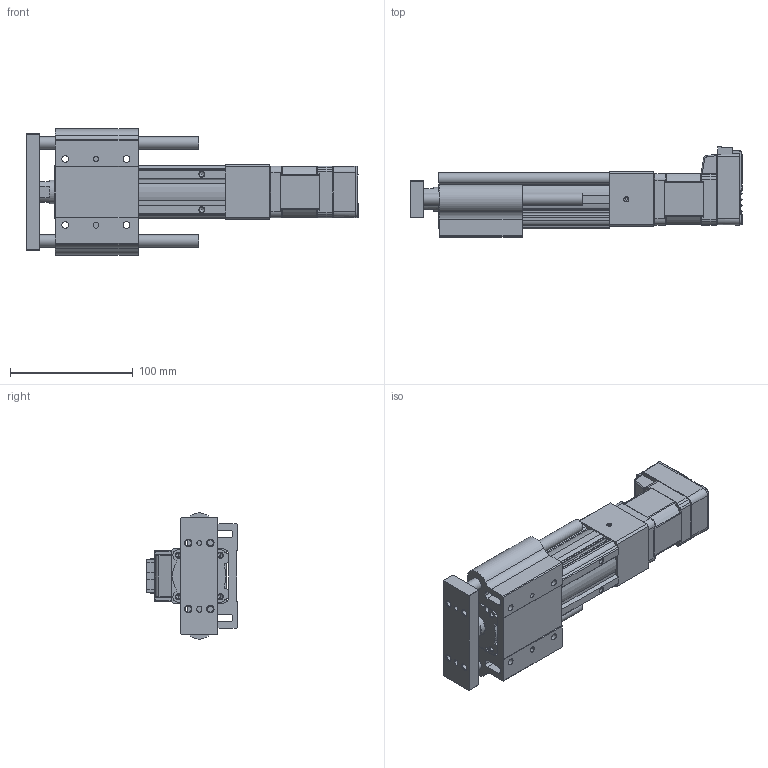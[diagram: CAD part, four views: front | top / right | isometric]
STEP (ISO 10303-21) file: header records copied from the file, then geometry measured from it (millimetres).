
FILE_DESCRIPTION (( 'STEP AP214' ), '1' );
FILE_NAME ('LEYG3(+)-25LDNM1□-50-17L.STEP', '2023-04-10T04:35:58', ( '' ), ( '' ), 'SwSTEP 2.0', 'SolidWorks 2019', '' );
FILE_SCHEMA (( 'AUTOMOTIVE_DESIGN' ));
Length unit declared in the file: millimetre
Products named in the file (6): LEYG3(+)-25LNM1?_ROD_50; LEYG3(+)-25LNM1□_ATTACH_50; CM3(+)-17L50A; LEYG3(+)-25□DNM1_MOTOR Flange; LEYG3(+)-25NM1?_BODY_50; LEYG3(+)-25LDNM1□-50-17L
Assembly tree (5 placements, depth 2):
  LEYG3(+)-25LDNM1□-50-17L
    LEYG3(+)-25NM1?_BODY_50
    LEYG3(+)-25LNM1?_ROD_50
    LEYG3(+)-25LNM1□_ATTACH_50
    LEYG3(+)-25□DNM1_MOTOR Flange
    CM3(+)-17L50A
Bounding box: 270.8 x 73.55 x 103 mm (x, y, z)
Volume: 612626.8 mm3; surface area: 138096.7 mm2
Topology: 5 solids, 5 shells, 940 faces, 2388 edges, 1501 vertices
Faces by surface type: plane 499, cylinder 272, cone 90, bspline 29, torus 29, sphere 21
Full cylindrical faces by diameter (mm): 2.5 x4, 3.5 x4, 4 x2, 4.2 x2, 4.9 x4, 5 x1, 5.4 x4, 8 x1, 10 x2, 11 x1, 22 x1, 33 x1
Entity records: 38867 total; most frequent: CARTESIAN_POINT 6846, ORIENTED_EDGE 4620, DIRECTION 4489, EDGE_CURVE 2310, AXIS2_PLACEMENT_3D 1502, VERTEX_POINT 1494, VECTOR 1485, LINE 1485
